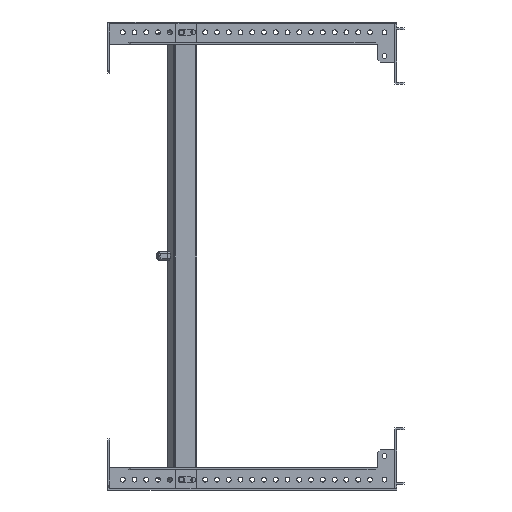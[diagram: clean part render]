
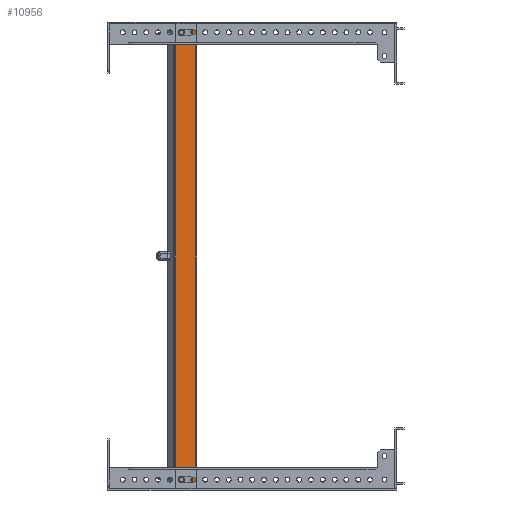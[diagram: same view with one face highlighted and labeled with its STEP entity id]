
A CAD part, front view. The second image highlights one B-rep face of the part: STEP entity #10956.
In plain terms, the highlighted planar face has unit normal (0, -1, 0).
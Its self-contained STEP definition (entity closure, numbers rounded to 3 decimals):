
#283 = ORIENTED_EDGE ( 'NONE', *, *, #15249, .T. ) ;
#288 = LINE ( 'NONE', #21271, #9991 ) ;
#549 = EDGE_CURVE ( 'NONE', #23288, #15465, #27958, .T. ) ;
#608 = ORIENTED_EDGE ( 'NONE', *, *, #24531, .F. ) ;
#863 = LINE ( 'NONE', #3331, #24913 ) ;
#1019 = DIRECTION ( 'NONE',  ( 0., 1., 0. ) ) ;
#1570 = EDGE_CURVE ( 'NONE', #12382, #17181, #22419, .T. ) ;
#2323 = CARTESIAN_POINT ( 'NONE',  ( 1105.802, -254., -97.5 ) ) ;
#2434 = DIRECTION ( 'NONE',  ( 1., 0., 0. ) ) ;
#2824 = CARTESIAN_POINT ( 'NONE',  ( 1120.302, -254., -84. ) ) ;
#2893 = VERTEX_POINT ( 'NONE', #13324 ) ;
#2946 = ORIENTED_EDGE ( 'NONE', *, *, #21823, .T. ) ;
#3331 = CARTESIAN_POINT ( 'NONE',  ( 1150.146, -254., -97.5 ) ) ;
#3360 = EDGE_CURVE ( 'NONE', #12833, #18063, #11437, .T. ) ;
#4392 = DIRECTION ( 'NONE',  ( 1., 0., 0. ) ) ;
#5355 = DIRECTION ( 'NONE',  ( 0., 1., 0. ) ) ;
#5869 = CARTESIAN_POINT ( 'NONE',  ( 1112.302, -254., -91. ) ) ;
#6108 = DIRECTION ( 'NONE',  ( -1., 0., 0. ) ) ;
#6544 = LINE ( 'NONE', #30019, #20474 ) ;
#7005 = ORIENTED_EDGE ( 'NONE', *, *, #13372, .T. ) ;
#7069 = FACE_OUTER_BOUND ( 'NONE', #16803, .T. ) ;
#7387 = FACE_BOUND ( 'NONE', #19842, .T. ) ;
#7817 = DIRECTION ( 'NONE',  ( -1., 0., 0. ) ) ;
#8084 = DIRECTION ( 'NONE',  ( -1., 0., 0. ) ) ;
#8098 = CARTESIAN_POINT ( 'NONE',  ( 1120.302, -254., 387.5 ) ) ;
#8615 = VECTOR ( 'NONE', #10973, 1000. ) ;
#8673 = CARTESIAN_POINT ( 'NONE',  ( 1112.302, -254., -91. ) ) ;
#8743 = AXIS2_PLACEMENT_3D ( 'NONE', #8098, #20113, #26765 ) ;
#8892 = CARTESIAN_POINT ( 'NONE',  ( 1112.302, -254., 391. ) ) ;
#9413 = DIRECTION ( 'NONE',  ( 1., 0., 0. ) ) ;
#9474 = EDGE_LOOP ( 'NONE', ( #17197, #2946, #283, #30157, #7005 ) ) ;
#9692 = VECTOR ( 'NONE', #25150, 1000. ) ;
#9991 = VECTOR ( 'NONE', #9413, 1000. ) ;
#10093 = CARTESIAN_POINT ( 'NONE',  ( 1112.302, -254., -87.5 ) ) ;
#10887 = DIRECTION ( 'NONE',  ( 0., 1., 0. ) ) ;
#10956 = ADVANCED_FACE ( 'NONE', ( #7069, #28809, #7387 ), #19370, .F. ) ;
#10973 = DIRECTION ( 'NONE',  ( 1., 0., 0. ) ) ;
#11208 = DIRECTION ( 'NONE',  ( -1., 0., 0. ) ) ;
#11286 = CARTESIAN_POINT ( 'NONE',  ( 1120.302, -254., -87.5 ) ) ;
#11437 = LINE ( 'NONE', #25943, #25877 ) ;
#12057 = CIRCLE ( 'NONE', #26858, 3.5 ) ;
#12234 = ORIENTED_EDGE ( 'NONE', *, *, #14453, .F. ) ;
#12382 = VERTEX_POINT ( 'NONE', #12933 ) ;
#12562 = VERTEX_POINT ( 'NONE', #27083 ) ;
#12833 = VERTEX_POINT ( 'NONE', #2824 ) ;
#12933 = CARTESIAN_POINT ( 'NONE',  ( 1108.802, -254., -87.5 ) ) ;
#12951 = CARTESIAN_POINT ( 'NONE',  ( 1128.304, -254., -100.859 ) ) ;
#13018 = CARTESIAN_POINT ( 'NONE',  ( 1112.302, -254., -87.5 ) ) ;
#13057 = ORIENTED_EDGE ( 'NONE', *, *, #3360, .F. ) ;
#13189 = CARTESIAN_POINT ( 'NONE',  ( 1112.302, -254., 387.5 ) ) ;
#13257 = CARTESIAN_POINT ( 'NONE',  ( 1112.302, -254., 384. ) ) ;
#13283 = LINE ( 'NONE', #2323, #28317 ) ;
#13317 = VERTEX_POINT ( 'NONE', #15258 ) ;
#13324 = CARTESIAN_POINT ( 'NONE',  ( 1105.802, -254., -97.5 ) ) ;
#13372 = EDGE_CURVE ( 'NONE', #15465, #24262, #29779, .T. ) ;
#13415 = LINE ( 'NONE', #12951, #25643 ) ;
#13511 = CARTESIAN_POINT ( 'NONE',  ( 1128.304, -254., -97.5 ) ) ;
#13578 = DIRECTION ( 'NONE',  ( -1., 0., 0. ) ) ;
#13840 = CARTESIAN_POINT ( 'NONE',  ( 1112.302, -254., 384. ) ) ;
#13888 = VERTEX_POINT ( 'NONE', #29846 ) ;
#14019 = DIRECTION ( 'NONE',  ( 0., -1., 0. ) ) ;
#14029 = DIRECTION ( 'NONE',  ( -1., 0., 0. ) ) ;
#14321 = EDGE_CURVE ( 'NONE', #17181, #22208, #17892, .T. ) ;
#14429 = CARTESIAN_POINT ( 'NONE',  ( 1120.302, -254., 391. ) ) ;
#14453 = EDGE_CURVE ( 'NONE', #2893, #13888, #13283, .T. ) ;
#14504 = AXIS2_PLACEMENT_3D ( 'NONE', #11286, #14019, #13578 ) ;
#15137 = CIRCLE ( 'NONE', #28465, 3.5 ) ;
#15249 = EDGE_CURVE ( 'NONE', #16870, #23288, #6544, .T. ) ;
#15258 = CARTESIAN_POINT ( 'NONE',  ( 1128.304, -254., 397.5 ) ) ;
#15465 = VERTEX_POINT ( 'NONE', #19761 ) ;
#16176 = ORIENTED_EDGE ( 'NONE', *, *, #26472, .F. ) ;
#16362 = ORIENTED_EDGE ( 'NONE', *, *, #14321, .F. ) ;
#16762 = CARTESIAN_POINT ( 'NONE',  ( 1150.77, -254., 150. ) ) ;
#16803 = EDGE_LOOP ( 'NONE', ( #26643, #12234, #608, #22368 ) ) ;
#16870 = VERTEX_POINT ( 'NONE', #8892 ) ;
#17181 = VERTEX_POINT ( 'NONE', #5869 ) ;
#17197 = ORIENTED_EDGE ( 'NONE', *, *, #19595, .T. ) ;
#17447 = EDGE_CURVE ( 'NONE', #13888, #13317, #288, .T. ) ;
#17552 = CARTESIAN_POINT ( 'NONE',  ( 1112.302, -254., -84. ) ) ;
#17822 = DIRECTION ( 'NONE',  ( -1., 0., 0. ) ) ;
#17892 = LINE ( 'NONE', #8673, #8615 ) ;
#17935 = ORIENTED_EDGE ( 'NONE', *, *, #1570, .F. ) ;
#18063 = VERTEX_POINT ( 'NONE', #17552 ) ;
#18457 = CIRCLE ( 'NONE', #14504, 3.5 ) ;
#19370 = PLANE ( 'NONE',  #22458 ) ;
#19595 = EDGE_CURVE ( 'NONE', #24262, #12562, #12057, .T. ) ;
#19761 = CARTESIAN_POINT ( 'NONE',  ( 1120.302, -254., 384. ) ) ;
#19842 = EDGE_LOOP ( 'NONE', ( #16362, #17935, #27672, #13057, #16176 ) ) ;
#20113 = DIRECTION ( 'NONE',  ( 0., 1., 0. ) ) ;
#20474 = VECTOR ( 'NONE', #4392, 1000. ) ;
#21271 = CARTESIAN_POINT ( 'NONE',  ( 1105.802, -254., 397.5 ) ) ;
#21823 = EDGE_CURVE ( 'NONE', #12562, #16870, #29527, .T. ) ;
#22147 = DIRECTION ( 'NONE',  ( 0., -1., 0. ) ) ;
#22208 = VERTEX_POINT ( 'NONE', #24885 ) ;
#22368 = ORIENTED_EDGE ( 'NONE', *, *, #22692, .T. ) ;
#22419 = CIRCLE ( 'NONE', #28355, 3.5 ) ;
#22458 = AXIS2_PLACEMENT_3D ( 'NONE', #16762, #5355, #2434 ) ;
#22692 = EDGE_CURVE ( 'NONE', #28327, #13317, #13415, .T. ) ;
#23288 = VERTEX_POINT ( 'NONE', #14429 ) ;
#24092 = AXIS2_PLACEMENT_3D ( 'NONE', #13189, #10887, #11208 ) ;
#24262 = VERTEX_POINT ( 'NONE', #13840 ) ;
#24491 = CARTESIAN_POINT ( 'NONE',  ( 1112.302, -254., 387.5 ) ) ;
#24531 = EDGE_CURVE ( 'NONE', #28327, #2893, #863, .T. ) ;
#24885 = CARTESIAN_POINT ( 'NONE',  ( 1120.302, -254., -91. ) ) ;
#24913 = VECTOR ( 'NONE', #6108, 1000. ) ;
#25150 = DIRECTION ( 'NONE',  ( -1., 0., 0. ) ) ;
#25643 = VECTOR ( 'NONE', #29332, 1000. ) ;
#25877 = VECTOR ( 'NONE', #14029, 1000. ) ;
#25943 = CARTESIAN_POINT ( 'NONE',  ( 1112.302, -254., -84. ) ) ;
#26391 = EDGE_CURVE ( 'NONE', #18063, #12382, #15137, .T. ) ;
#26472 = EDGE_CURVE ( 'NONE', #22208, #12833, #18457, .T. ) ;
#26643 = ORIENTED_EDGE ( 'NONE', *, *, #17447, .F. ) ;
#26765 = DIRECTION ( 'NONE',  ( -1., 0., 0. ) ) ;
#26858 = AXIS2_PLACEMENT_3D ( 'NONE', #24491, #1019, #17822 ) ;
#27083 = CARTESIAN_POINT ( 'NONE',  ( 1108.802, -254., 387.5 ) ) ;
#27672 = ORIENTED_EDGE ( 'NONE', *, *, #26391, .F. ) ;
#27958 = CIRCLE ( 'NONE', #8743, 3.5 ) ;
#28317 = VECTOR ( 'NONE', #28401, 1000. ) ;
#28327 = VERTEX_POINT ( 'NONE', #13511 ) ;
#28355 = AXIS2_PLACEMENT_3D ( 'NONE', #13018, #22147, #7817 ) ;
#28401 = DIRECTION ( 'NONE',  ( 0., 0., 1. ) ) ;
#28465 = AXIS2_PLACEMENT_3D ( 'NONE', #10093, #28925, #8084 ) ;
#28809 = FACE_BOUND ( 'NONE', #9474, .T. ) ;
#28925 = DIRECTION ( 'NONE',  ( 0., -1., 0. ) ) ;
#29332 = DIRECTION ( 'NONE',  ( 0., 0., 1. ) ) ;
#29527 = CIRCLE ( 'NONE', #24092, 3.5 ) ;
#29779 = LINE ( 'NONE', #13257, #9692 ) ;
#29846 = CARTESIAN_POINT ( 'NONE',  ( 1105.802, -254., 397.5 ) ) ;
#30019 = CARTESIAN_POINT ( 'NONE',  ( 1112.302, -254., 391. ) ) ;
#30157 = ORIENTED_EDGE ( 'NONE', *, *, #549, .T. ) ;
